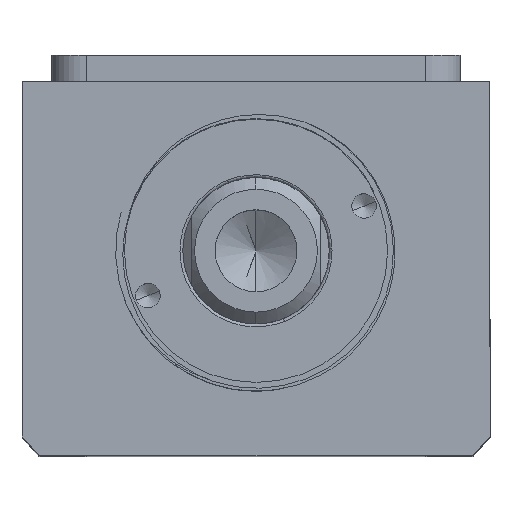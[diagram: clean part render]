
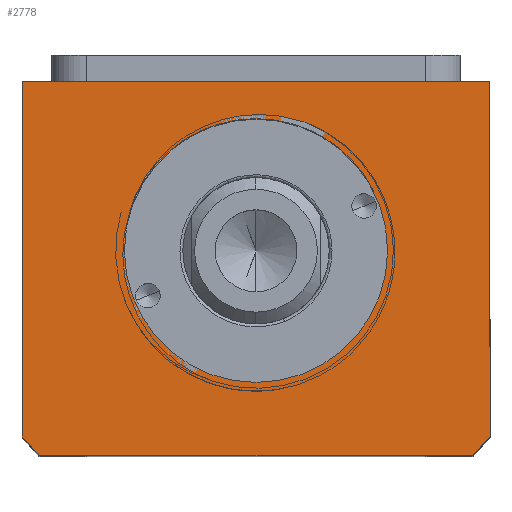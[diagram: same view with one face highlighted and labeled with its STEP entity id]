
A CAD part, top view. The second image highlights one B-rep face of the part: STEP entity #2778.
In plain terms, the highlighted planar face has unit normal (0, 0, 1).
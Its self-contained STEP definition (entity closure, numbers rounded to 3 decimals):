
#152 = LINE ( 'NONE', #5398, #4552 ) ;
#176 = VERTEX_POINT ( 'NONE', #7104 ) ;
#259 = LINE ( 'NONE', #4636, #8691 ) ;
#271 = VERTEX_POINT ( 'NONE', #1460 ) ;
#358 = ORIENTED_EDGE ( 'NONE', *, *, #1943, .T. ) ;
#565 = DIRECTION ( 'NONE',  ( 0., 0., 1. ) ) ;
#763 = DIRECTION ( 'NONE',  ( 1., 0., 0. ) ) ;
#1007 = VERTEX_POINT ( 'NONE', #7438 ) ;
#1079 = VERTEX_POINT ( 'NONE', #6849 ) ;
#1187 = CIRCLE ( 'NONE', #8642, 51. ) ;
#1332 = DIRECTION ( 'NONE',  ( -1., 0., 0. ) ) ;
#1460 = CARTESIAN_POINT ( 'NONE',  ( 37.094, -75.507, 120. ) ) ;
#1483 = CARTESIAN_POINT ( 'NONE',  ( 0., -40.507, 120. ) ) ;
#1556 = CARTESIAN_POINT ( 'NONE',  ( 40., -11.507, 120. ) ) ;
#1638 = ORIENTED_EDGE ( 'NONE', *, *, #10238, .T. ) ;
#1906 = ORIENTED_EDGE ( 'NONE', *, *, #6543, .T. ) ;
#1943 = EDGE_CURVE ( 'NONE', #1079, #271, #152, .T. ) ;
#2036 = VERTEX_POINT ( 'NONE', #5523 ) ;
#2225 = VERTEX_POINT ( 'NONE', #2768 ) ;
#2315 = DIRECTION ( 'NONE',  ( 1., 0., 0. ) ) ;
#2506 = EDGE_LOOP ( 'NONE', ( #9528, #7129, #358, #8680, #1906, #1638 ) ) ;
#2688 = LINE ( 'NONE', #5185, #2950 ) ;
#2768 = CARTESIAN_POINT ( 'NONE',  ( -40., -72.145, 120. ) ) ;
#2778 = ADVANCED_FACE ( 'NONE', ( #7697, #3379 ), #10058, .T. ) ;
#2827 = DIRECTION ( 'NONE',  ( 0., 0., 1. ) ) ;
#2950 = VECTOR ( 'NONE', #7520, 1000. ) ;
#3019 = VERTEX_POINT ( 'NONE', #3834 ) ;
#3105 = EDGE_CURVE ( 'NONE', #2225, #1079, #1187, .T. ) ;
#3197 = VERTEX_POINT ( 'NONE', #1556 ) ;
#3379 = FACE_OUTER_BOUND ( 'NONE', #2506, .T. ) ;
#3834 = CARTESIAN_POINT ( 'NONE',  ( -40., -11.507, 120. ) ) ;
#3888 = CARTESIAN_POINT ( 'NONE',  ( 0., -40.507, 120. ) ) ;
#4055 = EDGE_CURVE ( 'NONE', #271, #176, #6174, .T. ) ;
#4084 = EDGE_LOOP ( 'NONE', ( #10052, #7650 ) ) ;
#4552 = VECTOR ( 'NONE', #10416, 1000. ) ;
#4636 = CARTESIAN_POINT ( 'NONE',  ( -40., -11.507, 120. ) ) ;
#4736 = EDGE_CURVE ( 'NONE', #1007, #2036, #5520, .T. ) ;
#4737 = DIRECTION ( 'NONE',  ( 1., 0., 0. ) ) ;
#5185 = CARTESIAN_POINT ( 'NONE',  ( 40., -11.507, 120. ) ) ;
#5381 = CARTESIAN_POINT ( 'NONE',  ( -40., -11.507, 120. ) ) ;
#5398 = CARTESIAN_POINT ( 'NONE',  ( -40., -75.507, 120. ) ) ;
#5494 = CARTESIAN_POINT ( 'NONE',  ( 0., -40.507, 120. ) ) ;
#5520 = CIRCLE ( 'NONE', #8575, 22.5 ) ;
#5523 = CARTESIAN_POINT ( 'NONE',  ( -22.5, -40.507, 120. ) ) ;
#5554 = CIRCLE ( 'NONE', #10392, 22.5 ) ;
#5704 = DIRECTION ( 'NONE',  ( 0., 0., 1. ) ) ;
#6078 = CARTESIAN_POINT ( 'NONE',  ( 0., 0., 120. ) ) ;
#6174 = CIRCLE ( 'NONE', #6395, 51. ) ;
#6308 = DIRECTION ( 'NONE',  ( 1., 0., 0. ) ) ;
#6395 = AXIS2_PLACEMENT_3D ( 'NONE', #10525, #5704, #763 ) ;
#6543 = EDGE_CURVE ( 'NONE', #176, #3197, #2688, .T. ) ;
#6689 = VECTOR ( 'NONE', #10199, 1000. ) ;
#6849 = CARTESIAN_POINT ( 'NONE',  ( -37.094, -75.507, 120. ) ) ;
#7104 = CARTESIAN_POINT ( 'NONE',  ( 40., -72.145, 120. ) ) ;
#7129 = ORIENTED_EDGE ( 'NONE', *, *, #3105, .T. ) ;
#7220 = DIRECTION ( 'NONE',  ( 0., 0., 1. ) ) ;
#7438 = CARTESIAN_POINT ( 'NONE',  ( 22.5, -40.507, 120. ) ) ;
#7520 = DIRECTION ( 'NONE',  ( 0., 1., 0. ) ) ;
#7628 = EDGE_CURVE ( 'NONE', #2036, #1007, #5554, .T. ) ;
#7650 = ORIENTED_EDGE ( 'NONE', *, *, #7628, .F. ) ;
#7697 = FACE_BOUND ( 'NONE', #4084, .T. ) ;
#8522 = DIRECTION ( 'NONE',  ( 1., 0., 0. ) ) ;
#8575 = AXIS2_PLACEMENT_3D ( 'NONE', #3888, #9555, #4737 ) ;
#8642 = AXIS2_PLACEMENT_3D ( 'NONE', #1483, #7220, #2315 ) ;
#8680 = ORIENTED_EDGE ( 'NONE', *, *, #4055, .T. ) ;
#8691 = VECTOR ( 'NONE', #1332, 1000. ) ;
#8841 = EDGE_CURVE ( 'NONE', #3019, #2225, #9081, .T. ) ;
#9081 = LINE ( 'NONE', #5381, #6689 ) ;
#9369 = AXIS2_PLACEMENT_3D ( 'NONE', #6078, #2827, #8522 ) ;
#9528 = ORIENTED_EDGE ( 'NONE', *, *, #8841, .T. ) ;
#9555 = DIRECTION ( 'NONE',  ( 0., 0., 1. ) ) ;
#10052 = ORIENTED_EDGE ( 'NONE', *, *, #4736, .F. ) ;
#10058 = PLANE ( 'NONE',  #9369 ) ;
#10199 = DIRECTION ( 'NONE',  ( 0., -1., 0. ) ) ;
#10238 = EDGE_CURVE ( 'NONE', #3197, #3019, #259, .T. ) ;
#10392 = AXIS2_PLACEMENT_3D ( 'NONE', #5494, #565, #6308 ) ;
#10416 = DIRECTION ( 'NONE',  ( 1., 0., 0. ) ) ;
#10525 = CARTESIAN_POINT ( 'NONE',  ( 0., -40.507, 120. ) ) ;
